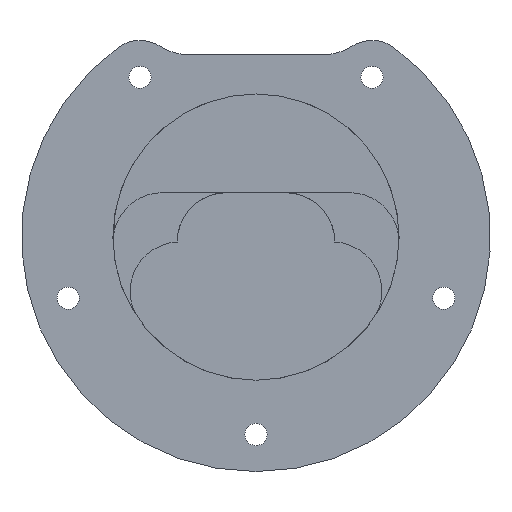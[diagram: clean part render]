
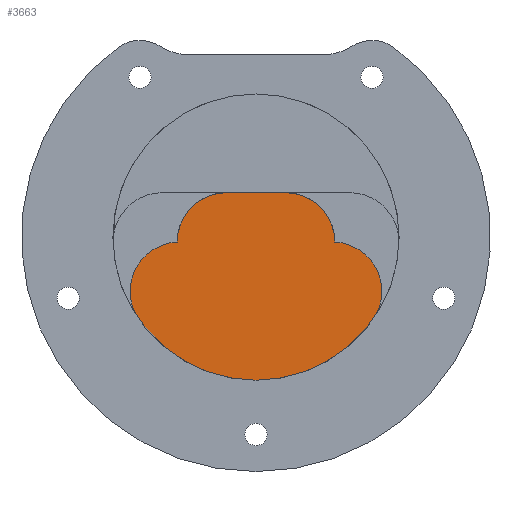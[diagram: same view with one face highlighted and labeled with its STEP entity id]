
A CAD part, front view. The second image highlights one B-rep face of the part: STEP entity #3663.
In plain terms, the highlighted planar face has unit normal (0, -1, 0).
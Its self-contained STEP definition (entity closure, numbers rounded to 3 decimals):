
#40 = DIRECTION ( 'NONE',  ( 0., 0., 1. ) ) ;
#397 = PLANE ( 'NONE',  #4918 ) ;
#463 = CARTESIAN_POINT ( 'NONE',  ( -25.806, 77., -29.228 ) ) ;
#596 = DIRECTION ( 'NONE',  ( 0., 1., 0. ) ) ;
#745 = CARTESIAN_POINT ( 'NONE',  ( 16., 77., -1.001 ) ) ;
#771 = CARTESIAN_POINT ( 'NONE',  ( -16., 77., -1.001 ) ) ;
#776 = CARTESIAN_POINT ( 'NONE',  ( 16., 77., -1. ) ) ;
#800 = CARTESIAN_POINT ( 'NONE',  ( 0., 77., 9. ) ) ;
#821 = CARTESIAN_POINT ( 'NONE',  ( -6., 77., 9. ) ) ;
#1091 = FACE_OUTER_BOUND ( 'NONE', #1242, .T. ) ;
#1242 = EDGE_LOOP ( 'NONE', ( #2289, #2408, #1994, #1880, #1902, #2002, #1980, #1913, #2507 ) ) ;
#1880 = ORIENTED_EDGE ( 'NONE', *, *, #6427, .T. ) ;
#1902 = ORIENTED_EDGE ( 'NONE', *, *, #6454, .T. ) ;
#1913 = ORIENTED_EDGE ( 'NONE', *, *, #6797, .F. ) ;
#1980 = ORIENTED_EDGE ( 'NONE', *, *, #4676, .F. ) ;
#1994 = ORIENTED_EDGE ( 'NONE', *, *, #6423, .F. ) ;
#2002 = ORIENTED_EDGE ( 'NONE', *, *, #6445, .F. ) ;
#2289 = ORIENTED_EDGE ( 'NONE', *, *, #4663, .F. ) ;
#2408 = ORIENTED_EDGE ( 'NONE', *, *, #4642, .F. ) ;
#2507 = ORIENTED_EDGE ( 'NONE', *, *, #4644, .F. ) ;
#2608 = CARTESIAN_POINT ( 'NONE',  ( -23.658, 77., -16.772 ) ) ;
#2616 = CARTESIAN_POINT ( 'NONE',  ( 0., 77., -29. ) ) ;
#2720 = CIRCLE ( 'NONE', #4508, 29. ) ;
#2739 = VECTOR ( 'NONE', #6025, 1000. ) ;
#2763 = LINE ( 'NONE', #5106, #3080 ) ;
#2903 = LINE ( 'NONE', #6026, #2739 ) ;
#3052 = CIRCLE ( 'NONE', #4466, 10. ) ;
#3080 = VECTOR ( 'NONE', #5160, 1000. ) ;
#3108 = VECTOR ( 'NONE', #5198, 1000. ) ;
#3168 = CIRCLE ( 'NONE', #4824, 29. ) ;
#3186 = CIRCLE ( 'NONE', #4417, 10. ) ;
#3268 = CIRCLE ( 'NONE', #4486, 10. ) ;
#3316 = LINE ( 'NONE', #5229, #3108 ) ;
#3325 = CIRCLE ( 'NONE', #4469, 10. ) ;
#3343 = CARTESIAN_POINT ( 'NONE',  ( 23.658, 77., -16.772 ) ) ;
#3345 = CARTESIAN_POINT ( 'NONE',  ( 6., 77., 9. ) ) ;
#3376 = CARTESIAN_POINT ( 'NONE',  ( 0., 77., 0. ) ) ;
#3399 = DIRECTION ( 'NONE',  ( 0., 1., 0. ) ) ;
#3400 = DIRECTION ( 'NONE',  ( 0., 0., -1. ) ) ;
#3663 = ADVANCED_FACE ( 'NONE', ( #1091 ), #397, .F. ) ;
#4051 = VERTEX_POINT ( 'NONE', #745 ) ;
#4086 = VERTEX_POINT ( 'NONE', #800 ) ;
#4094 = VERTEX_POINT ( 'NONE', #771 ) ;
#4109 = VERTEX_POINT ( 'NONE', #776 ) ;
#4128 = VERTEX_POINT ( 'NONE', #821 ) ;
#4246 = VERTEX_POINT ( 'NONE', #2616 ) ;
#4277 = VERTEX_POINT ( 'NONE', #2608 ) ;
#4304 = VERTEX_POINT ( 'NONE', #3343 ) ;
#4316 = VERTEX_POINT ( 'NONE', #3345 ) ;
#4417 = AXIS2_PLACEMENT_3D ( 'NONE', #5871, #6031, #6058 ) ;
#4466 = AXIS2_PLACEMENT_3D ( 'NONE', #5167, #5164, #5144 ) ;
#4469 = AXIS2_PLACEMENT_3D ( 'NONE', #5179, #5102, #5204 ) ;
#4486 = AXIS2_PLACEMENT_3D ( 'NONE', #6030, #6034, #6009 ) ;
#4508 = AXIS2_PLACEMENT_3D ( 'NONE', #5987, #6130, #6119 ) ;
#4642 = EDGE_CURVE ( 'NONE', #4109, #4051, #2903, .T. ) ;
#4644 = EDGE_CURVE ( 'NONE', #4304, #4246, #2720, .T. ) ;
#4663 = EDGE_CURVE ( 'NONE', #4051, #4304, #3186, .T. ) ;
#4676 = EDGE_CURVE ( 'NONE', #4277, #4094, #3268, .T. ) ;
#4824 = AXIS2_PLACEMENT_3D ( 'NONE', #3376, #3399, #3400 ) ;
#4918 = AXIS2_PLACEMENT_3D ( 'NONE', #463, #596, #40 ) ;
#5102 = DIRECTION ( 'NONE',  ( 0., 1., 0. ) ) ;
#5106 = CARTESIAN_POINT ( 'NONE',  ( 2.982, 77., 9. ) ) ;
#5144 = DIRECTION ( 'NONE',  ( 0., 0., -1. ) ) ;
#5160 = DIRECTION ( 'NONE',  ( -1., 0., 0. ) ) ;
#5164 = DIRECTION ( 'NONE',  ( 0., 1., 0. ) ) ;
#5167 = CARTESIAN_POINT ( 'NONE',  ( 6., 77., -1. ) ) ;
#5179 = CARTESIAN_POINT ( 'NONE',  ( -6., 77., -1. ) ) ;
#5198 = DIRECTION ( 'NONE',  ( -1., 0., 0. ) ) ;
#5204 = DIRECTION ( 'NONE',  ( 0., 0., -1. ) ) ;
#5229 = CARTESIAN_POINT ( 'NONE',  ( -2.982, 77., 9. ) ) ;
#5871 = CARTESIAN_POINT ( 'NONE',  ( 15.5, 77., -10.989 ) ) ;
#5987 = CARTESIAN_POINT ( 'NONE',  ( 0., 77., 0. ) ) ;
#6009 = DIRECTION ( 'NONE',  ( 0., 0., -1. ) ) ;
#6025 = DIRECTION ( 'NONE',  ( 0., 0., -1. ) ) ;
#6026 = CARTESIAN_POINT ( 'NONE',  ( 16., 77., -10.114 ) ) ;
#6030 = CARTESIAN_POINT ( 'NONE',  ( -15.5, 77., -10.989 ) ) ;
#6031 = DIRECTION ( 'NONE',  ( 0., 1., 0. ) ) ;
#6034 = DIRECTION ( 'NONE',  ( 0., 1., 0. ) ) ;
#6058 = DIRECTION ( 'NONE',  ( 0., 0., -1. ) ) ;
#6119 = DIRECTION ( 'NONE',  ( 0., 0., -1. ) ) ;
#6130 = DIRECTION ( 'NONE',  ( 0., 1., 0. ) ) ;
#6423 = EDGE_CURVE ( 'NONE', #4316, #4109, #3052, .T. ) ;
#6427 = EDGE_CURVE ( 'NONE', #4316, #4086, #2763, .T. ) ;
#6445 = EDGE_CURVE ( 'NONE', #4094, #4128, #3325, .T. ) ;
#6454 = EDGE_CURVE ( 'NONE', #4086, #4128, #3316, .T. ) ;
#6797 = EDGE_CURVE ( 'NONE', #4246, #4277, #3168, .T. ) ;
